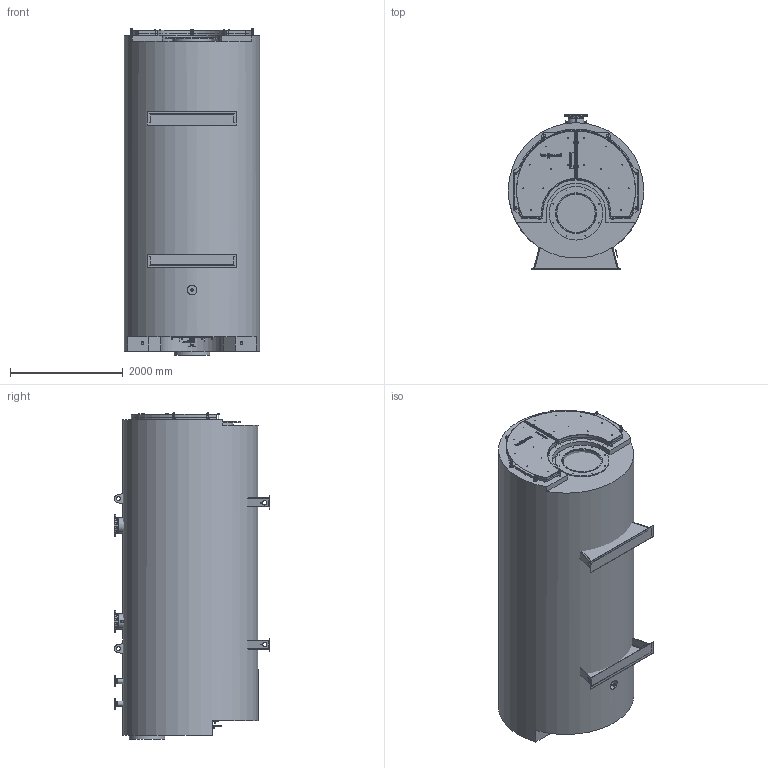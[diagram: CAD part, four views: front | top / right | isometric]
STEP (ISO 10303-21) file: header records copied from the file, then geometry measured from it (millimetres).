
FILE_DESCRIPTION(/* description */ (''),/* implementation_level */ '2;1');
FILE_NAME(/* name */ 'FU0284804_T001.stp',/* time_stamp */ '2017-05-10T13:45:30+02:00',/* author */ (''),/* organization */ (''),/* preprocessor_version */ 'ST-DEVELOPER v16',/* originating_system */ 'SIEMENS PLM Software NX 10.0',/* authorisation */ '');
FILE_SCHEMA (('AUTOMOTIVE_DESIGN { 1 0 10303 214 3 1 1 1 }'));
Length unit declared in the file: millimetre
Products named in the file (111): 5655433_T001; 9024203_T001; 5655434_T001; 5015776_T001; 5639538_T001; 5661399_T004; 9578654_T001; 5997881_T001; 5997880_T001; 5997879_T001; 5997878_T001; 5661400_T003; 9028015_T001; 5520421_T001; 5520412_T001; 5520211_T001; 9548563_T001; 5752984_T002; 5995843_T002; 6040735_T001; 5652625_T002; 6041698_T001; 9542040_T001; 9542038_T002; 9045119_T001; 5456644_T005; 5656673_T003; 5275142_T005; 5656677_T004; 9589709_T001; 5997888_T001; 5997887_T001; 5997886_T001; 5641545_T002; 5641543_T002; 5997877_T001; 5641546_T002; 5749858_T002; 5656550_T002; 5996360_T001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
Assembly tree (255 placements, depth 6):
  FU0284804_T001
    FU0284805_T001
    FU0287421_T001_MODELNX-ARRAGMNTArrangement 1
      FU0278749_T001_MODEL
        7620440_T008_MODELNX-ARRAGMNTZUSAMMENST1
          7606579_T001_MODEL
            5520211_T001
            5520412_T001
            5520421_T001
            9028015_T001
          5152223_T004
        7289360_T004_MODEL
          5634020_T004
          9017087_T001
        7600470_T002_MODEL
          9017087_T001
          5893670_T001
          5506345_T001  x2
        7287638_T005_MODEL  x2
          5744503_T001
          9017047_T001
        5281378_T009  x2
        5157685_T004
      6042965_T002
      7645312_T001_MODEL
        7645313_T001_MODEL
          5653500_T002
          5653499_T002
          5874821_T001
          6043060_T001  x2
          5157685_T004  x2
          5653497_T002  x2
          5653498_T002
          9529527_T001  x8
        7593291_T002_MODEL  x2
          5184434_T003
          9028008_T001
        9607197_T001  x8
        9028035_T002  x8
        9503194_T001
      7584475_T004_MODEL
        9801033_T001  x8
        7584478_T003_MODEL
          7584488_T002_MODEL
            5661400_T003
            5997878_T001
            5997879_T001
            5997880_T001
            5997881_T001
            9578654_T001  x8
          5997882_T002
          5997883_T001
          5997884_T001
          5997889_T001
          9516963_T001  x8
          9649746_T001
          FU0334939_T001
          5997885_T001
        9028008_T001  x8
        9591781_T001  x6
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Bounding box: 2399.44 x 2752 x 5790 mm (x, y, z)
Volume: 24941444213.8 mm3; surface area: 97085195.9 mm2
Topology: 251 solids, 251 shells, 3106 faces, 7216 edges, 4692 vertices
Faces by surface type: plane 1568, cylinder 925, cone 394, bspline 99, torus 73, extrusion 43, sphere 4
Full cylindrical faces by diameter (mm): 1 x42, 2.2 x4, 3.2 x4, 3.3 x4, 4 x6, 4.6 x4, 5 x4, 6.2 x8, 6.5 x4, 6.647 x16, 7.8 x18, 8 x18, 8.376 x8, 10 x8, 10.106 x9, 10.5 x6, 10.77 x8, 10.86 x9, 12 x71, 13 x14, 13.27 x12, 14 x15, 14.63 x8, 15 x13, 15.5 x9, 16 x3, 17.294 x8, 18 x40, 18.9 x2, 20 x14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
Entity records: 47375 total; most frequent: CARTESIAN_POINT 11405, DIRECTION 6546, ORIENTED_EDGE 5808, EDGE_CURVE 2904, AXIS2_PLACEMENT_3D 2603, VERTEX_POINT 2167, EDGE_LOOP 2130, ADVANCED_FACE 1393
